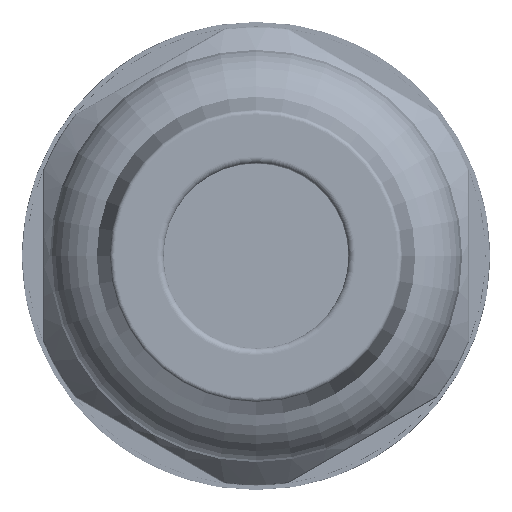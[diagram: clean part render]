
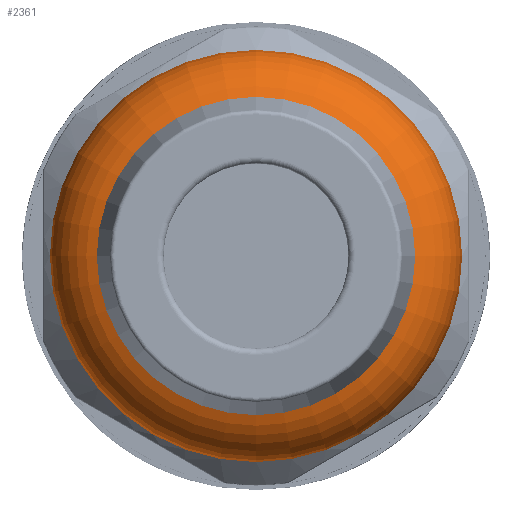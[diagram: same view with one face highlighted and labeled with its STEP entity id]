
A CAD part, left-side view. The second image highlights one B-rep face of the part: STEP entity #2361.
In plain terms, the highlighted toroidal (fillet/blend) face has major radius 6.249 mm and minor radius 3.001 mm.
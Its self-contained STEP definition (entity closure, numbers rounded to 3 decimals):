
#161=TOROIDAL_SURFACE('',#9032,6.249,3.001);
#2361=ADVANCED_FACE('',(#3373,#3374),#161,.T.);
#3373=FACE_BOUND('',#3508,.T.);
#3374=FACE_BOUND('',#3509,.T.);
#3508=EDGE_LOOP('',(#4220));
#3509=EDGE_LOOP('',(#4221));
#4220=ORIENTED_EDGE('',*,*,#7602,.T.);
#4221=ORIENTED_EDGE('',*,*,#7601,.F.);
#6741=VERTEX_POINT('',#13168);
#6742=VERTEX_POINT('',#13171);
#7601=EDGE_CURVE('',#6741,#6741,#8756,.T.);
#7602=EDGE_CURVE('',#6742,#6742,#8757,.T.);
#8756=CIRCLE('',#9029,9.25);
#8757=CIRCLE('',#9031,7.142);
#9029=AXIS2_PLACEMENT_3D('',#13167,#9835,#9836);
#9031=AXIS2_PLACEMENT_3D('',#13170,#9839,#9840);
#9032=AXIS2_PLACEMENT_3D('',#13172,#9841,#9842);
#9835=DIRECTION('',(1.,0.,0.));
#9836=DIRECTION('',(0.,0.866,0.5));
#9839=DIRECTION('',(1.,0.,0.));
#9840=DIRECTION('',(0.,0.866,0.5));
#9841=DIRECTION('',(1.,0.,0.));
#9842=DIRECTION('',(0.,0.866,0.5));
#13167=CARTESIAN_POINT('',(-28.8,0.,0.));
#13168=CARTESIAN_POINT('',(-28.8,8.011,4.625));
#13170=CARTESIAN_POINT('',(-31.665,0.,0.));
#13171=CARTESIAN_POINT('',(-31.665,6.185,3.571));
#13172=CARTESIAN_POINT('',(-28.8,0.,0.));
